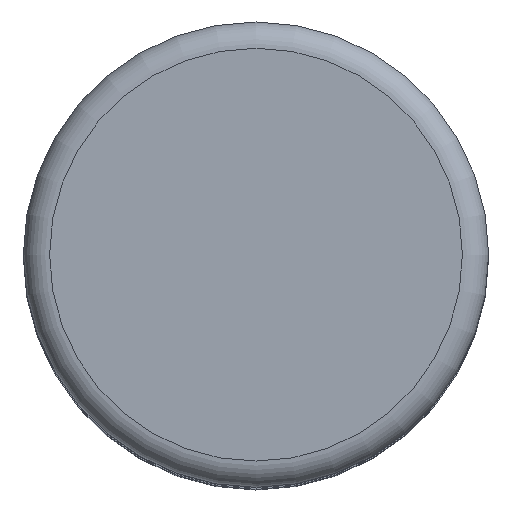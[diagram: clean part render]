
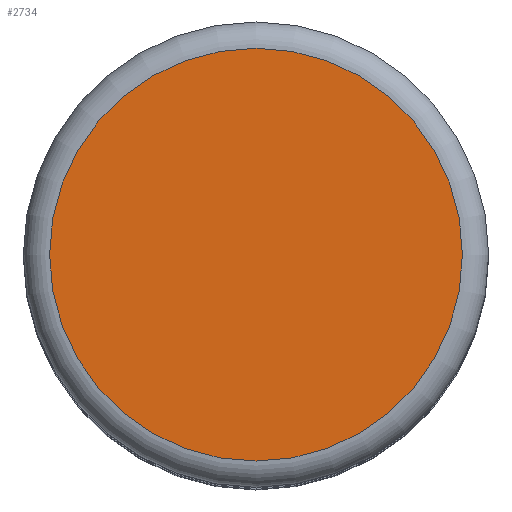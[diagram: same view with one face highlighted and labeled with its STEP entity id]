
A CAD part, top view. The second image highlights one B-rep face of the part: STEP entity #2734.
In plain terms, the highlighted planar face has unit normal (0, 0, 1).
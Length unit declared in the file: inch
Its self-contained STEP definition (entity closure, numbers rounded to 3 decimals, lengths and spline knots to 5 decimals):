
#148=PLANE('',#2916);
#294=FACE_OUTER_BOUND('',#445,.T.);
#445=EDGE_LOOP('',(#2555));
#670=CIRCLE('',#2913,0.07858);
#1320=VERTEX_POINT('',#6169);
#1731=EDGE_CURVE('',#1320,#1320,#670,.T.);
#2555=ORIENTED_EDGE('',*,*,#1731,.F.);
#2734=ADVANCED_FACE('',(#294),#148,.T.);
#2913=AXIS2_PLACEMENT_3D('',#6171,#3421,#3422);
#2916=AXIS2_PLACEMENT_3D('',#6176,#3428,#3429);
#3421=DIRECTION('center_axis',(0.,0.,-1.));
#3422=DIRECTION('ref_axis',(-1.,0.,0.));
#3428=DIRECTION('center_axis',(0.,0.,1.));
#3429=DIRECTION('ref_axis',(1.,0.,0.));
#6169=CARTESIAN_POINT('',(0.07858,0.,0.29528));
#6171=CARTESIAN_POINT('Origin',(0.,0.,0.29528));
#6176=CARTESIAN_POINT('Origin',(0.,0.,
0.29528));
